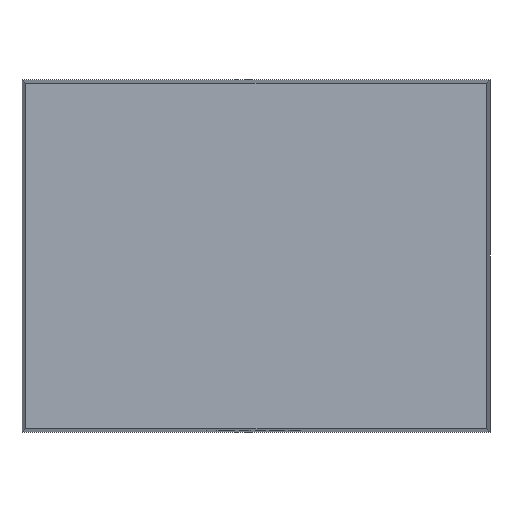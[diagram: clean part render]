
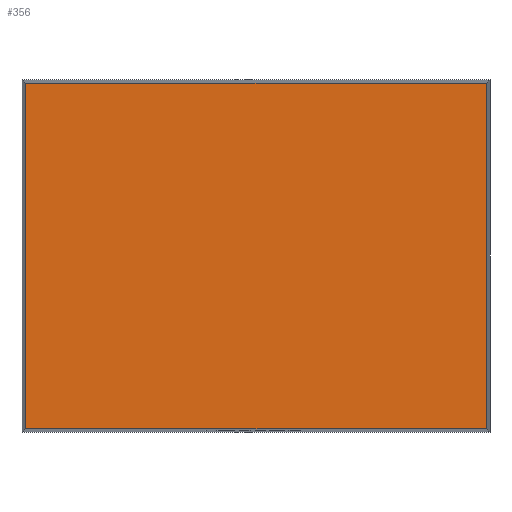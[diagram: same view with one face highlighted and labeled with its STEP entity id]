
A CAD part, front view. The second image highlights one B-rep face of the part: STEP entity #356.
In plain terms, the highlighted planar face has unit normal (0, -1, 0).
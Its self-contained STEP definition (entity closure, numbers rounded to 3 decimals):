
#356 = ADVANCED_FACE ( 'NONE', ( #4738 ), #2681, .F. ) ;
#479 = VECTOR ( 'NONE', #4776, 1000. ) ;
#662 = CARTESIAN_POINT ( 'NONE',  ( 239.941, 0., 179.941 ) ) ;
#797 = CARTESIAN_POINT ( 'NONE',  ( -239.941, 0., -184. ) ) ;
#805 = VECTOR ( 'NONE', #4509, 1000. ) ;
#861 = EDGE_CURVE ( 'NONE', #1684, #2310, #2424, .T. ) ;
#973 = AXIS2_PLACEMENT_3D ( 'NONE', #2271, #2716, #5090 ) ;
#1535 = LINE ( 'NONE', #3158, #479 ) ;
#1666 = ORIENTED_EDGE ( 'NONE', *, *, #3578, .F. ) ;
#1684 = VERTEX_POINT ( 'NONE', #4598 ) ;
#2058 = CARTESIAN_POINT ( 'NONE',  ( 239.941, 0., -179.941 ) ) ;
#2271 = CARTESIAN_POINT ( 'NONE',  ( 244., 0., 184. ) ) ;
#2310 = VERTEX_POINT ( 'NONE', #3886 ) ;
#2424 = LINE ( 'NONE', #797, #3914 ) ;
#2458 = CARTESIAN_POINT ( 'NONE',  ( -244., 0., -179.941 ) ) ;
#2662 = VERTEX_POINT ( 'NONE', #662 ) ;
#2681 = PLANE ( 'NONE',  #973 ) ;
#2716 = DIRECTION ( 'NONE',  ( 0., 1., 0. ) ) ;
#2938 = EDGE_CURVE ( 'NONE', #2662, #4417, #1535, .T. ) ;
#3094 = VECTOR ( 'NONE', #4641, 1000. ) ;
#3098 = LINE ( 'NONE', #5136, #3094 ) ;
#3158 = CARTESIAN_POINT ( 'NONE',  ( 239.941, 0., -184. ) ) ;
#3578 = EDGE_CURVE ( 'NONE', #4417, #1684, #4113, .T. ) ;
#3647 = ORIENTED_EDGE ( 'NONE', *, *, #2938, .F. ) ;
#3698 = ORIENTED_EDGE ( 'NONE', *, *, #5019, .F. ) ;
#3886 = CARTESIAN_POINT ( 'NONE',  ( -239.941, 0., 179.941 ) ) ;
#3914 = VECTOR ( 'NONE', #4042, 1000. ) ;
#4042 = DIRECTION ( 'NONE',  ( 0., 0., 1. ) ) ;
#4113 = LINE ( 'NONE', #2458, #805 ) ;
#4336 = ORIENTED_EDGE ( 'NONE', *, *, #861, .F. ) ;
#4417 = VERTEX_POINT ( 'NONE', #2058 ) ;
#4509 = DIRECTION ( 'NONE',  ( -1., 0., 0. ) ) ;
#4598 = CARTESIAN_POINT ( 'NONE',  ( -239.941, 0., -179.941 ) ) ;
#4641 = DIRECTION ( 'NONE',  ( 1., 0., 0. ) ) ;
#4738 = FACE_OUTER_BOUND ( 'NONE', #4790, .T. ) ;
#4776 = DIRECTION ( 'NONE',  ( 0., 0., -1. ) ) ;
#4790 = EDGE_LOOP ( 'NONE', ( #3647, #3698, #4336, #1666 ) ) ;
#5019 = EDGE_CURVE ( 'NONE', #2310, #2662, #3098, .T. ) ;
#5090 = DIRECTION ( 'NONE',  ( 0., 0., 1. ) ) ;
#5136 = CARTESIAN_POINT ( 'NONE',  ( -244., 0., 179.941 ) ) ;
